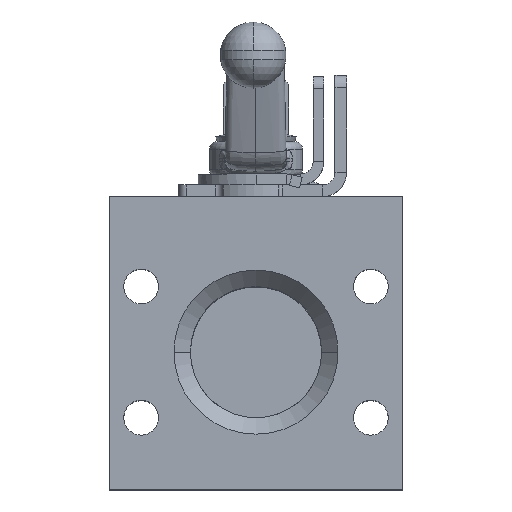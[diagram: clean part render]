
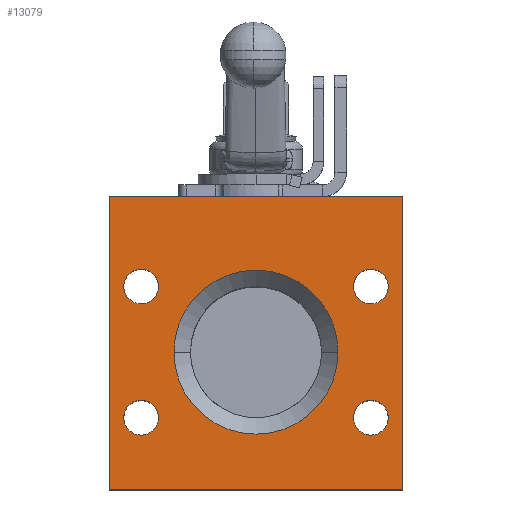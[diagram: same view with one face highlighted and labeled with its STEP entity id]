
A CAD part, top view. The second image highlights one B-rep face of the part: STEP entity #13079.
In plain terms, the highlighted planar face has unit normal (0, 0, 1).
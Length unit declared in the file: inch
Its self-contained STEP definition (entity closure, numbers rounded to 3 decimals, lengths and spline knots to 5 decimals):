
#345 = CARTESIAN_POINT ( 'NONE',  ( 1.21445, -0.40839, 3.36547 ) ) ;
#355 = DIRECTION ( 'NONE',  ( 0., -1., 0. ) ) ;
#763 = LINE ( 'NONE', #5807, #48293 ) ;
#1036 = DIRECTION ( 'NONE',  ( 0., 1., 0. ) ) ;
#1069 = DIRECTION ( 'NONE',  ( -1., 0., 0. ) ) ;
#3738 = LINE ( 'NONE', #21704, #35789 ) ;
#3895 = VERTEX_POINT ( 'NONE', #39149 ) ;
#4285 = DIRECTION ( 'NONE',  ( 1., 0., 0. ) ) ;
#5188 = DIRECTION ( 'NONE',  ( 1., 0., 0. ) ) ;
#5449 = VERTEX_POINT ( 'NONE', #54088 ) ;
#5528 = LINE ( 'NONE', #53303, #52786 ) ;
#5807 = CARTESIAN_POINT ( 'NONE',  ( 2.19945, -2.50339, 3.36547 ) ) ;
#6903 = DIRECTION ( 'NONE',  ( 1., 0., 0. ) ) ;
#6953 = VERTEX_POINT ( 'NONE', #43088 ) ;
#7648 = VERTEX_POINT ( 'NONE', #38642 ) ;
#8027 = VERTEX_POINT ( 'NONE', #8521 ) ;
#8521 = CARTESIAN_POINT ( 'NONE',  ( 2.19945, 1.96661, 3.36547 ) ) ;
#9131 = DIRECTION ( 'NONE',  ( 0., 0., -1. ) ) ;
#9140 = EDGE_CURVE ( 'NONE', #24408, #21626, #19683, .T. ) ;
#9167 = FACE_BOUND ( 'NONE', #44820, .T. ) ;
#9460 = DIRECTION ( 'NONE',  ( -1., 0., 0. ) ) ;
#9651 = AXIS2_PLACEMENT_3D ( 'NONE', #27461, #53895, #45172 ) ;
#10661 = CARTESIAN_POINT ( 'NONE',  ( -1.28555, -0.40839, 3.36547 ) ) ;
#11024 = EDGE_CURVE ( 'NONE', #21463, #16132, #28756, .T. ) ;
#11323 = AXIS2_PLACEMENT_3D ( 'NONE', #14349, #48657, #27296 ) ;
#12175 = ORIENTED_EDGE ( 'NONE', *, *, #28365, .T. ) ;
#13079 = ADVANCED_FACE ( 'NONE', ( #18144, #51909, #47131, #30524, #9167, #34746 ), #47685, .T. ) ;
#13125 = CIRCLE ( 'NONE', #48181, 0.26562 ) ;
#13904 = DIRECTION ( 'NONE',  ( -1., 0., 0. ) ) ;
#13967 = CIRCLE ( 'NONE', #33744, 0.26562 ) ;
#14180 = DIRECTION ( 'NONE',  ( 0., 0., -1. ) ) ;
#14349 = CARTESIAN_POINT ( 'NONE',  ( 1.71445, -1.40839, 3.36547 ) ) ;
#14413 = EDGE_CURVE ( 'NONE', #18816, #19662, #55244, .T. ) ;
#16132 = VERTEX_POINT ( 'NONE', #30992 ) ;
#16295 = EDGE_CURVE ( 'NONE', #21626, #24408, #19240, .T. ) ;
#16755 = ORIENTED_EDGE ( 'NONE', *, *, #14413, .T. ) ;
#18144 = FACE_BOUND ( 'NONE', #46396, .T. ) ;
#18622 = ORIENTED_EDGE ( 'NONE', *, *, #47056, .T. ) ;
#18816 = VERTEX_POINT ( 'NONE', #40329 ) ;
#19240 = CIRCLE ( 'NONE', #50670, 1.25 ) ;
#19662 = VERTEX_POINT ( 'NONE', #28406 ) ;
#19683 = CIRCLE ( 'NONE', #51121, 1.25 ) ;
#19787 = ORIENTED_EDGE ( 'NONE', *, *, #54233, .F. ) ;
#19882 = ORIENTED_EDGE ( 'NONE', *, *, #28997, .T. ) ;
#20553 = CIRCLE ( 'NONE', #34032, 0.26562 ) ;
#21182 = ORIENTED_EDGE ( 'NONE', *, *, #55297, .F. ) ;
#21456 = EDGE_CURVE ( 'NONE', #3895, #7648, #13967, .T. ) ;
#21463 = VERTEX_POINT ( 'NONE', #44287 ) ;
#21626 = VERTEX_POINT ( 'NONE', #10661 ) ;
#21704 = CARTESIAN_POINT ( 'NONE',  ( -2.27055, 1.96661, 3.36547 ) ) ;
#22072 = EDGE_LOOP ( 'NONE', ( #45216, #51431, #12175, #16755 ) ) ;
#22695 = AXIS2_PLACEMENT_3D ( 'NONE', #46858, #26313, #42923 ) ;
#24408 = VERTEX_POINT ( 'NONE', #345 ) ;
#25306 = VERTEX_POINT ( 'NONE', #30382 ) ;
#26133 = AXIS2_PLACEMENT_3D ( 'NONE', #48767, #14180, #13904 ) ;
#26313 = DIRECTION ( 'NONE',  ( 0., 0., 1. ) ) ;
#26539 = CARTESIAN_POINT ( 'NONE',  ( 1.71445, -1.40839, 3.36547 ) ) ;
#27296 = DIRECTION ( 'NONE',  ( 1., 0., 0. ) ) ;
#27407 = EDGE_LOOP ( 'NONE', ( #21182, #41235 ) ) ;
#27461 = CARTESIAN_POINT ( 'NONE',  ( 1.71445, 0.59161, 3.36547 ) ) ;
#28365 = EDGE_CURVE ( 'NONE', #25306, #18816, #3738, .T. ) ;
#28406 = CARTESIAN_POINT ( 'NONE',  ( 2.19945, -2.50339, 3.36547 ) ) ;
#28756 = CIRCLE ( 'NONE', #47624, 0.26562 ) ;
#28997 = EDGE_CURVE ( 'NONE', #44160, #5449, #20553, .T. ) ;
#29318 = DIRECTION ( 'NONE',  ( 0., 0., 1. ) ) ;
#30382 = CARTESIAN_POINT ( 'NONE',  ( -2.27055, 1.96661, 3.36547 ) ) ;
#30500 = DIRECTION ( 'NONE',  ( -1., 0., 0. ) ) ;
#30524 = FACE_BOUND ( 'NONE', #31970, .T. ) ;
#30645 = DIRECTION ( 'NONE',  ( 0., 0., -1. ) ) ;
#30773 = CARTESIAN_POINT ( 'NONE',  ( -1.78555, 0.59161, 3.36547 ) ) ;
#30923 = CARTESIAN_POINT ( 'NONE',  ( -0.03555, -0.40839, 3.36547 ) ) ;
#30992 = CARTESIAN_POINT ( 'NONE',  ( -1.51993, -1.40839, 3.36547 ) ) ;
#31069 = CIRCLE ( 'NONE', #11323, 0.26562 ) ;
#31970 = EDGE_LOOP ( 'NONE', ( #49699, #33274 ) ) ;
#32148 = VERTEX_POINT ( 'NONE', #54145 ) ;
#33274 = ORIENTED_EDGE ( 'NONE', *, *, #16295, .T. ) ;
#33501 = CARTESIAN_POINT ( 'NONE',  ( -1.78555, -1.40839, 3.36547 ) ) ;
#33521 = CARTESIAN_POINT ( 'NONE',  ( -1.78555, -1.40839, 3.36547 ) ) ;
#33744 = AXIS2_PLACEMENT_3D ( 'NONE', #30773, #44558, #30500 ) ;
#33867 = CIRCLE ( 'NONE', #9651, 0.26562 ) ;
#34032 = AXIS2_PLACEMENT_3D ( 'NONE', #51037, #9131, #51308 ) ;
#34529 = EDGE_CURVE ( 'NONE', #5449, #44160, #33867, .T. ) ;
#34746 = FACE_BOUND ( 'NONE', #51045, .T. ) ;
#35283 = EDGE_CURVE ( 'NONE', #19662, #8027, #763, .T. ) ;
#35350 = EDGE_CURVE ( 'NONE', #8027, #25306, #5528, .T. ) ;
#35789 = VECTOR ( 'NONE', #355, 39.37008 ) ;
#38642 = CARTESIAN_POINT ( 'NONE',  ( -1.51993, 0.59161, 3.36547 ) ) ;
#39149 = CARTESIAN_POINT ( 'NONE',  ( -2.05118, 0.59161, 3.36547 ) ) ;
#39566 = CARTESIAN_POINT ( 'NONE',  ( -0.03555, -0.40839, 3.36547 ) ) ;
#40329 = CARTESIAN_POINT ( 'NONE',  ( -2.27055, -2.50339, 3.36547 ) ) ;
#40397 = DIRECTION ( 'NONE',  ( 0., 0., -1. ) ) ;
#41235 = ORIENTED_EDGE ( 'NONE', *, *, #11024, .F. ) ;
#42317 = CARTESIAN_POINT ( 'NONE',  ( -2.27055, -2.50339, 3.36547 ) ) ;
#42563 = ORIENTED_EDGE ( 'NONE', *, *, #54991, .F. ) ;
#42923 = DIRECTION ( 'NONE',  ( 1., 0., 0. ) ) ;
#43088 = CARTESIAN_POINT ( 'NONE',  ( 1.44882, -1.40839, 3.36547 ) ) ;
#43186 = ORIENTED_EDGE ( 'NONE', *, *, #21456, .T. ) ;
#43699 = DIRECTION ( 'NONE',  ( 0., 0., 1. ) ) ;
#44160 = VERTEX_POINT ( 'NONE', #52792 ) ;
#44287 = CARTESIAN_POINT ( 'NONE',  ( -2.05118, -1.40839, 3.36547 ) ) ;
#44304 = VECTOR ( 'NONE', #6903, 39.37008 ) ;
#44558 = DIRECTION ( 'NONE',  ( 0., 0., -1. ) ) ;
#44820 = EDGE_LOOP ( 'NONE', ( #19882, #50236 ) ) ;
#45172 = DIRECTION ( 'NONE',  ( -1., 0., 0. ) ) ;
#45216 = ORIENTED_EDGE ( 'NONE', *, *, #35283, .T. ) ;
#46396 = EDGE_LOOP ( 'NONE', ( #19787, #42563 ) ) ;
#46479 = DIRECTION ( 'NONE',  ( 1., 0., 0. ) ) ;
#46858 = CARTESIAN_POINT ( 'NONE',  ( -0.03555, -0.26839, 3.36547 ) ) ;
#47056 = EDGE_CURVE ( 'NONE', #7648, #3895, #50377, .T. ) ;
#47131 = FACE_OUTER_BOUND ( 'NONE', #22072, .T. ) ;
#47624 = AXIS2_PLACEMENT_3D ( 'NONE', #33501, #50671, #4285 ) ;
#47685 = PLANE ( 'NONE',  #22695 ) ;
#47807 = DIRECTION ( 'NONE',  ( -1., 0., 0. ) ) ;
#48181 = AXIS2_PLACEMENT_3D ( 'NONE', #33521, #29318, #46479 ) ;
#48293 = VECTOR ( 'NONE', #1036, 39.37008 ) ;
#48657 = DIRECTION ( 'NONE',  ( 0., 0., 1. ) ) ;
#48767 = CARTESIAN_POINT ( 'NONE',  ( -1.78555, 0.59161, 3.36547 ) ) ;
#49699 = ORIENTED_EDGE ( 'NONE', *, *, #9140, .T. ) ;
#50236 = ORIENTED_EDGE ( 'NONE', *, *, #34529, .T. ) ;
#50377 = CIRCLE ( 'NONE', #26133, 0.26562 ) ;
#50670 = AXIS2_PLACEMENT_3D ( 'NONE', #30923, #30645, #47807 ) ;
#50671 = DIRECTION ( 'NONE',  ( 0., 0., 1. ) ) ;
#50832 = AXIS2_PLACEMENT_3D ( 'NONE', #26539, #43699, #5188 ) ;
#51037 = CARTESIAN_POINT ( 'NONE',  ( 1.71445, 0.59161, 3.36547 ) ) ;
#51045 = EDGE_LOOP ( 'NONE', ( #43186, #18622 ) ) ;
#51121 = AXIS2_PLACEMENT_3D ( 'NONE', #39566, #40397, #1069 ) ;
#51308 = DIRECTION ( 'NONE',  ( -1., 0., 0. ) ) ;
#51431 = ORIENTED_EDGE ( 'NONE', *, *, #35350, .T. ) ;
#51712 = CIRCLE ( 'NONE', #50832, 0.26562 ) ;
#51909 = FACE_BOUND ( 'NONE', #27407, .T. ) ;
#52786 = VECTOR ( 'NONE', #9460, 39.37008 ) ;
#52792 = CARTESIAN_POINT ( 'NONE',  ( 1.44882, 0.59161, 3.36547 ) ) ;
#53303 = CARTESIAN_POINT ( 'NONE',  ( 2.19945, 1.96661, 3.36547 ) ) ;
#53895 = DIRECTION ( 'NONE',  ( 0., 0., -1. ) ) ;
#54088 = CARTESIAN_POINT ( 'NONE',  ( 1.98007, 0.59161, 3.36547 ) ) ;
#54145 = CARTESIAN_POINT ( 'NONE',  ( 1.98007, -1.40839, 3.36547 ) ) ;
#54233 = EDGE_CURVE ( 'NONE', #32148, #6953, #51712, .T. ) ;
#54991 = EDGE_CURVE ( 'NONE', #6953, #32148, #31069, .T. ) ;
#55244 = LINE ( 'NONE', #42317, #44304 ) ;
#55297 = EDGE_CURVE ( 'NONE', #16132, #21463, #13125, .T. ) ;
